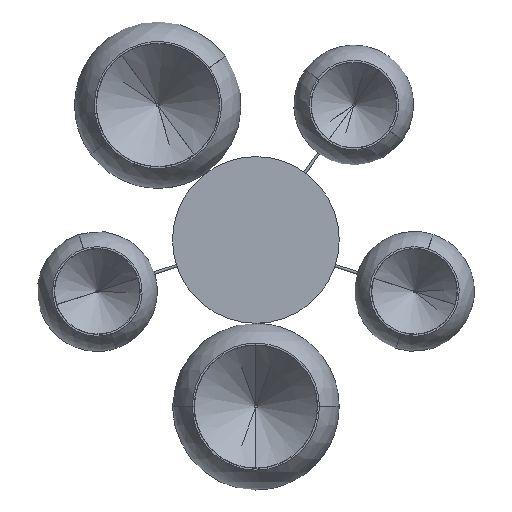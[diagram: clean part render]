
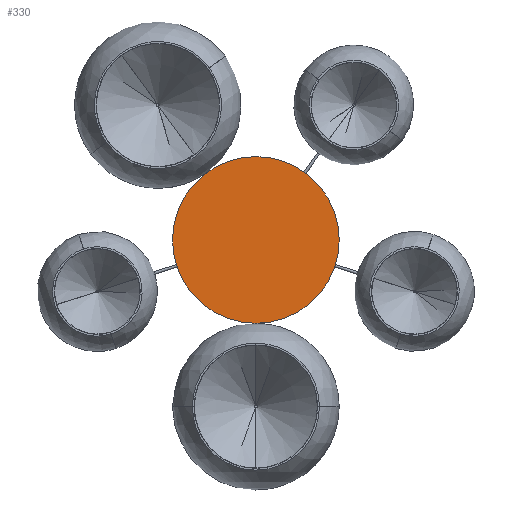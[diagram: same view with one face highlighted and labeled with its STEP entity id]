
A CAD part, front view. The second image highlights one B-rep face of the part: STEP entity #330.
In plain terms, the highlighted planar face has unit normal (0, -1, 0).
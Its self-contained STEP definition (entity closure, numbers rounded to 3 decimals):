
#260 = AXIS2_PLACEMENT_3D ( 'NONE', #1218, #5022, #5429 ) ;
#330 = ADVANCED_FACE ( 'NONE', ( #3429 ), #5332, .F. ) ;
#845 = VERTEX_POINT ( 'NONE', #2875 ) ;
#897 = CARTESIAN_POINT ( 'NONE',  ( 0., 0., 0. ) ) ;
#1067 = DIRECTION ( 'NONE',  ( 0., 1., 0. ) ) ;
#1218 = CARTESIAN_POINT ( 'NONE',  ( 0., 0., 0. ) ) ;
#1712 = EDGE_LOOP ( 'NONE', ( #5271, #3230 ) ) ;
#2081 = CARTESIAN_POINT ( 'NONE',  ( 0., 0., 0. ) ) ;
#2754 = DIRECTION ( 'NONE',  ( 0., 1., 0. ) ) ;
#2875 = CARTESIAN_POINT ( 'NONE',  ( 0., 0., 125. ) ) ;
#3028 = AXIS2_PLACEMENT_3D ( 'NONE', #2081, #1067, #3464 ) ;
#3230 = ORIENTED_EDGE ( 'NONE', *, *, #5654, .F. ) ;
#3429 = FACE_OUTER_BOUND ( 'NONE', #1712, .T. ) ;
#3464 = DIRECTION ( 'NONE',  ( 0., 0., 1. ) ) ;
#3676 = EDGE_CURVE ( 'NONE', #4269, #845, #5340, .T. ) ;
#4176 = AXIS2_PLACEMENT_3D ( 'NONE', #897, #2754, #4183 ) ;
#4183 = DIRECTION ( 'NONE',  ( 0., 0., 1. ) ) ;
#4269 = VERTEX_POINT ( 'NONE', #6088 ) ;
#5022 = DIRECTION ( 'NONE',  ( 0., 1., 0. ) ) ;
#5083 = CIRCLE ( 'NONE', #4176, 125. ) ;
#5271 = ORIENTED_EDGE ( 'NONE', *, *, #3676, .F. ) ;
#5332 = PLANE ( 'NONE',  #3028 ) ;
#5340 = CIRCLE ( 'NONE', #260, 125. ) ;
#5429 = DIRECTION ( 'NONE',  ( 0., 0., 1. ) ) ;
#5654 = EDGE_CURVE ( 'NONE', #845, #4269, #5083, .T. ) ;
#6088 = CARTESIAN_POINT ( 'NONE',  ( 0., 0., -125. ) ) ;
